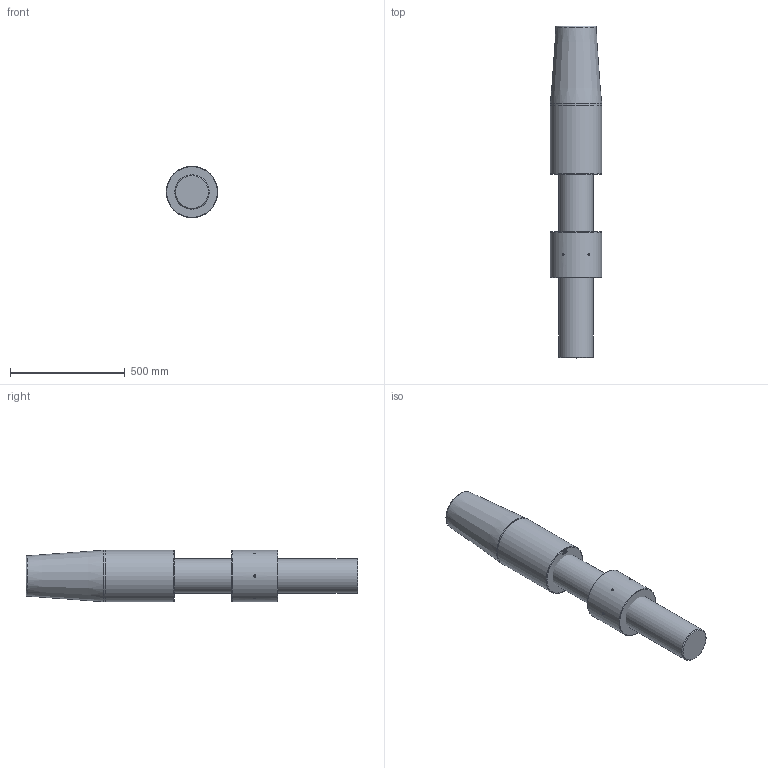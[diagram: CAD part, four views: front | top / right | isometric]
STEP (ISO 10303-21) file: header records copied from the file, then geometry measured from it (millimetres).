
FILE_DESCRIPTION(/* description */ (''),/* implementation_level */ '2;1');
FILE_NAME(/* name */ 'C:\Users\ranca\Desktop\CYM\ARRANGEMENT\CYM076 52 061 0.stp',/* time_stamp */ '2021-04-22T21:55:16+02:00',/* author */ ('ranca'),/* organization */ (''),/* preprocessor_version */ 'ST-DEVELOPER v16.13',/* originating_system */ 'Autodesk Inventor 2018',/* authorisation */ '');
FILE_SCHEMA (('AUTOMOTIVE_DESIGN { 1 0 10303 214 3 1 1 }'));
Length unit declared in the file: millimetre
Products named in the file (4): CYM076-52-061-0; CYM012-52-061-0_ROD; CYC076 52 065 0_CYL SOK_RH; CYM076-41-051-0
Assembly tree (3 placements, depth 2):
  CYM076-52-061-0
    CYM012-52-061-0_ROD
    CYC076 52 065 0_CYL SOK_RH
    CYM076-41-051-0
Bounding box: 225 x 1447 x 225 mm (x, y, z)
Volume: 48531545.1 mm3; surface area: 1218542.8 mm2
Topology: 3 solids, 3 shells, 505 faces, 1354 edges, 900 vertices
Faces by surface type: bspline 269, plane 214, cone 11, cylinder 9, torus 2
Full cylindrical faces by diameter (mm): 10 x6, 150 x1, 225 x2
Entity records: 17233 total; most frequent: CARTESIAN_POINT 6453, ORIENTED_EDGE 2650, EDGE_CURVE 1325, DIRECTION 1284, VERTEX_POINT 894, LINE 754, VECTOR 754, EDGE_LOOP 573
